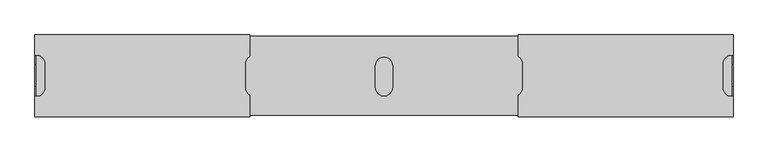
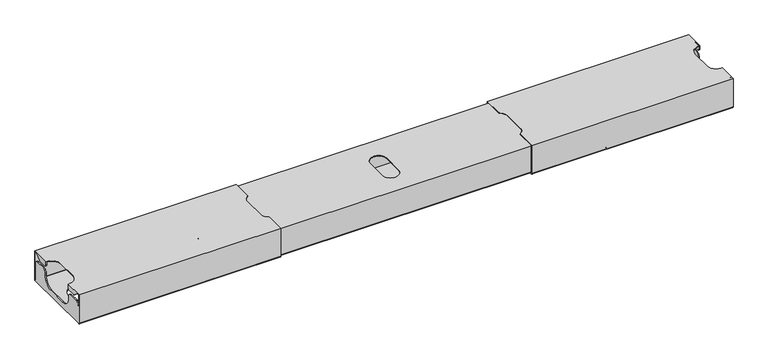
"""IFC4 building model written with IfcOpenShell, lengths in millimetres: furniture geometry, FREZZA_POP AD_Cable tray_for bench desk : Structure_ZGBI - Embossed White."""

from ifc_helpers import new_model, si_unit, frame, origin, place, context, project, spatial, polyline, circle_curve, source, transform, mapped, element, save
from ifc_brep_helpers import plane_surface, cylinder_surface, revolved_surface, advanced_brep


def furniture_9ccfb6ce(model_context):
    return source(origin(), model_context, "Body", "AdvancedBrep", [
        advanced_brep(
        [(440.0, 52.5, 432.7), (440.0, 52.5, 364.2), (440.0, 50.0, 361.7), (440.0, -129.0, 361.7), (440.0, -131.5, 364.2), (440.0, -131.5, 432.7), (440.0, -88.4089023, 432.7), (440.0, -88.4089023, 431.7), (440.0, -129.5, 431.7), (440.0, -129.5, 364.2), (440.0, -129.0, 363.7), (440.0, 50.0, 363.7), (440.0, 50.5, 364.2), (440.0, 50.5, 431.7), (440.0, 5.4089023, 431.7), (440.0, 5.4089023, 432.7), (1440.0, -131.5, 432.7), (1440.0, -131.5, 364.2), (1440.0, -129.0, 361.7), (1440.0, 50.0, 361.7), (1440.0, 52.5, 364.2), (1440.0, 52.5, 432.7), (1440.0, 5.4089023, 432.7), (1440.0, 5.4089023, 431.7), (1440.0, 50.5, 431.7), (1440.0, 50.5, 364.2), (1440.0, 50.0, 363.7), (1440.0, -129.0, 363.7), (1440.0, -129.5, 364.2), (1440.0, -129.5, 431.7), (1440.0, -88.4089023, 431.7), (1440.0, -88.4089023, 432.7), (1438.1818182, -86.4171839, 432.7), (1420.0, -66.5, 432.7), (1420.0, -16.5, 432.7), (1438.1818182, 3.4171839, 432.7), (441.8181818, 3.4171839, 432.7), (460.0, -16.5, 432.7), (460.0, -66.5, 432.7), (441.8181818, -86.4171839, 432.7), (920.0, -66.5, 432.7), (920.0, -16.5, 432.7), (960.0, -16.5, 432.7), (960.0, -66.5, 432.7), (500.0, 0.5, 361.7), (500.0, -79.5, 361.7), (1380.0, -79.5, 361.7), (1380.0, 0.5, 361.7), (1438.1818182, 3.4171839, 431.7), (1420.0, -16.5, 431.7), (1420.0, -66.5, 431.7), (1438.1818182, -86.4171839, 431.7), (441.8181818, -86.4171839, 431.7), (460.0, -66.5, 431.7), (460.0, -16.5, 431.7), (441.8181818, 3.4171839, 431.7), (920.0, -16.5, 431.7), (920.0, -66.5, 431.7), (960.0, -66.5, 431.7), (960.0, -16.5, 431.7), (500.0, -79.5, 363.7), (500.0, 0.5, 363.7), (1380.0, 0.5, 363.7), (1380.0, -79.5, 363.7)],
        [
            (0, 1),
            (1, 2, circle_curve(frame((440.0, 50.0, 364.2), z_axis=(-1.0, 0.0, 0.0), x_axis=(0.0, 1.0, 0.0)), 2.5)),
            (2, 3),
            (3, 4, circle_curve(frame((440.0, -129.0, 364.2), z_axis=(-1.0, 0.0, 0.0), x_axis=(0.0, 1.0, 0.0)), 2.5)),
            (4, 5),
            (5, 6),
            (6, 7),
            (7, 8),
            (8, 9),
            (9, 10, circle_curve(frame((440.0, -129.0, 364.2), z_axis=(1.0, 0.0, 0.0), x_axis=(0.0, 1.0, 0.0)), 0.5)),
            (10, 11),
            (11, 12, circle_curve(frame((440.0, 50.0, 364.2), z_axis=(1.0, 0.0, 0.0), x_axis=(0.0, 1.0, 0.0)), 0.5)),
            (12, 13),
            (13, 14),
            (14, 15),
            (15, 0),
            (16, 17),
            (17, 18, circle_curve(frame((1440.0, -129.0, 364.2), z_axis=(1.0, 0.0, 0.0), x_axis=(0.0, 1.0, 0.0)), 2.5)),
            (18, 19),
            (19, 20, circle_curve(frame((1440.0, 50.0, 364.2), z_axis=(1.0, 0.0, 0.0), x_axis=(0.0, 1.0, 0.0)), 2.5)),
            (20, 21),
            (21, 22),
            (22, 23),
            (23, 24),
            (24, 25),
            (25, 26, circle_curve(frame((1440.0, 50.0, 364.2), z_axis=(-1.0, 0.0, 0.0), x_axis=(0.0, 1.0, 0.0)), 0.5)),
            (26, 27),
            (27, 28, circle_curve(frame((1440.0, -129.0, 364.2), z_axis=(-1.0, 0.0, 0.0), x_axis=(0.0, 1.0, 0.0)), 0.5)),
            (28, 29),
            (29, 30),
            (30, 31),
            (31, 16),
            (5, 16),
            (31, 32, circle_curve(frame((1438.0, -88.4089023, 432.7), z_axis=(0.0, 0.0, 1.0), x_axis=(-1.0, 0.0, 0.0)), 2.0)),
            (32, 33, circle_curve(frame((1440.0, -66.5, 432.7), z_axis=(0.0, 0.0, -1.0), x_axis=(-1.0, 0.0, 0.0)), 20.0)),
            (33, 34),
            (34, 35, circle_curve(frame((1440.0, -16.5, 432.7), z_axis=(0.0, 0.0, -1.0), x_axis=(-1.0, 0.0, 0.0)), 20.0)),
            (35, 22, circle_curve(frame((1438.0, 5.4089023, 432.7), z_axis=(0.0, 0.0, 1.0), x_axis=(-1.0, 0.0, 0.0)), 2.0)),
            (21, 0),
            (15, 36, circle_curve(frame((442.0, 5.4089023, 432.7), z_axis=(0.0, 0.0, 1.0), x_axis=(-1.0, 0.0, 0.0)), 2.0)),
            (36, 37, circle_curve(frame((440.0, -16.5, 432.7), z_axis=(0.0, 0.0, -1.0), x_axis=(-1.0, 0.0, 0.0)), 20.0)),
            (37, 38),
            (38, 39, circle_curve(frame((440.0, -66.5, 432.7), z_axis=(0.0, 0.0, -1.0), x_axis=(-1.0, 0.0, 0.0)), 20.0)),
            (39, 6, circle_curve(frame((442.0, -88.4089023, 432.7), z_axis=(0.0, 0.0, 1.0), x_axis=(-1.0, 0.0, 0.0)), 2.0)),
            (40, 41),
            (41, 42, circle_curve(frame((940.0, -16.5, 432.7), z_axis=(0.0, 0.0, -1.0), x_axis=(-1.0, 0.0, 0.0)), 20.0)),
            (42, 43),
            (43, 40, circle_curve(frame((940.0, -66.5, 432.7), z_axis=(0.0, 0.0, -1.0), x_axis=(-1.0, 0.0, 0.0)), 20.0)),
            (20, 1),
            (19, 2),
            (18, 3),
            (44, 45, circle_curve(frame((500.0, -39.5, 361.7), z_axis=(0.0, 0.0, 1.0), x_axis=(-1.0, 0.0, 0.0)), 40.0)),
            (45, 44, circle_curve(frame((500.0, -39.5, 361.7), z_axis=(0.0, 0.0, 1.0), x_axis=(-1.0, 0.0, 0.0)), 40.0)),
            (46, 47, circle_curve(frame((1380.0, -39.5, 361.7), z_axis=(0.0, 0.0, 1.0), x_axis=(-1.0, 0.0, 0.0)), 40.0)),
            (47, 46, circle_curve(frame((1380.0, -39.5, 361.7), z_axis=(0.0, 0.0, 1.0), x_axis=(-1.0, 0.0, 0.0)), 40.0)),
            (17, 4),
            (13, 24),
            (23, 48, circle_curve(frame((1438.0, 5.4089023, 431.7), z_axis=(0.0, 0.0, -1.0), x_axis=(-1.0, 0.0, 0.0)), 2.0)),
            (48, 49, circle_curve(frame((1440.0, -16.5, 431.7), z_axis=(0.0, 0.0, 1.0), x_axis=(-1.0, 0.0, 0.0)), 20.0)),
            (49, 50),
            (50, 51, circle_curve(frame((1440.0, -66.5, 431.7), z_axis=(0.0, 0.0, 1.0), x_axis=(-1.0, 0.0, 0.0)), 20.0)),
            (51, 30, circle_curve(frame((1438.0, -88.4089023, 431.7), z_axis=(0.0, 0.0, -1.0), x_axis=(-1.0, 0.0, 0.0)), 2.0)),
            (29, 8),
            (7, 52, circle_curve(frame((442.0, -88.4089023, 431.7), z_axis=(0.0, 0.0, -1.0), x_axis=(-1.0, 0.0, 0.0)), 2.0)),
            (52, 53, circle_curve(frame((440.0, -66.5, 431.7), z_axis=(0.0, 0.0, 1.0), x_axis=(-1.0, 0.0, 0.0)), 20.0)),
            (53, 54),
            (54, 55, circle_curve(frame((440.0, -16.5, 431.7), z_axis=(0.0, 0.0, 1.0), x_axis=(-1.0, 0.0, 0.0)), 20.0)),
            (55, 14, circle_curve(frame((442.0, 5.4089023, 431.7), z_axis=(0.0, 0.0, -1.0), x_axis=(-1.0, 0.0, 0.0)), 2.0)),
            (56, 57),
            (57, 58, circle_curve(frame((940.0, -66.5, 431.7), z_axis=(0.0, 0.0, 1.0), x_axis=(-1.0, 0.0, 0.0)), 20.0)),
            (58, 59),
            (59, 56, circle_curve(frame((940.0, -16.5, 431.7), z_axis=(0.0, 0.0, 1.0), x_axis=(-1.0, 0.0, 0.0)), 20.0)),
            (28, 9),
            (27, 10),
            (26, 11),
            (60, 61, circle_curve(frame((500.0, -39.5, 363.7), z_axis=(0.0, 0.0, -1.0), x_axis=(-1.0, 0.0, 0.0)), 40.0)),
            (61, 60, circle_curve(frame((500.0, -39.5, 363.7), z_axis=(0.0, 0.0, -1.0), x_axis=(-1.0, 0.0, 0.0)), 40.0)),
            (62, 63, circle_curve(frame((1380.0, -39.5, 363.7), z_axis=(0.0, 0.0, -1.0), x_axis=(-1.0, 0.0, 0.0)), 40.0)),
            (63, 62, circle_curve(frame((1380.0, -39.5, 363.7), z_axis=(0.0, 0.0, -1.0), x_axis=(-1.0, 0.0, 0.0)), 40.0)),
            (25, 12),
            (40, 57),
            (56, 41),
            (43, 58),
            (42, 59),
            (32, 51),
            (50, 33),
            (35, 48),
            (34, 49),
            (37, 54),
            (53, 38),
            (36, 55),
            (39, 52),
            (60, 45),
            (44, 61),
            (62, 47),
            (46, 63),
        ],
        [
            plane_surface(frame((440.0, -39.5, 436.2), z_axis=(-1.0, 0.0, 0.0), x_axis=(0.0, 0.0, 1.0))),
            plane_surface(frame((1440.0, -39.5, 436.2), z_axis=(1.0, 0.0, 0.0), x_axis=(0.0, 0.0, 1.0))),
            plane_surface(frame((440.0, -131.5, 432.7), z_axis=(0.0, 0.0, 1.0), x_axis=(1.0, 0.0, 0.0))),
            plane_surface(frame((440.0, 52.5, 432.7), z_axis=(0.0, 1.0, 0.0), x_axis=(1.0, 0.0, 0.0))),
            cylinder_surface(frame((440.0, 50.0, 364.2), z_axis=(-1.0, 0.0, 0.0), x_axis=(0.0, 1.0, 0.0)), 2.5),
            plane_surface(frame((440.0, 50.0, 361.7), z_axis=(0.0, 0.0, -1.0), x_axis=(1.0, 0.0, 0.0))),
            cylinder_surface(frame((440.0, -129.0, 364.2), z_axis=(-1.0, 0.0, 0.0), x_axis=(0.0, 1.0, 0.0)), 2.5),
            plane_surface(frame((440.0, -131.5, 364.2), z_axis=(0.0, -1.0, 0.0), x_axis=(1.0, 0.0, 0.0))),
            plane_surface(frame((440.0, 50.5, 431.7), z_axis=(0.0, 0.0, -1.0), x_axis=(1.0, 0.0, 0.0))),
            plane_surface(frame((440.0, -129.5, 431.7), z_axis=(0.0, 1.0, 0.0), x_axis=(1.0, 0.0, 0.0))),
            revolved_surface(polyline([(1440.0, -128.5, 364.2), (440.0, -128.5, 364.2)]), (440.0, -129.0, 364.2), (1.0, 0.0, 0.0)),
            plane_surface(frame((440.0, -129.0, 363.7), z_axis=(0.0, 0.0, 1.0), x_axis=(1.0, 0.0, 0.0))),
            revolved_surface(polyline([(1440.0, 50.5, 364.2), (440.0, 50.5, 364.2)]), (440.0, 50.0, 364.2), (1.0, 0.0, 0.0)),
            plane_surface(frame((440.0, 50.5, 364.2), z_axis=(0.0, -1.0, 0.0), x_axis=(1.0, 0.0, 0.0))),
            plane_surface(frame((920.0, -16.5, 432.7), z_axis=(1.0, 0.0, 0.0), x_axis=(0.0, 0.0, -1.0))),
            revolved_surface(polyline([(920.0, -66.5, 432.7), (920.0, -66.5, 431.7)]), (940.0, -66.5, 431.7), (0.0, 0.0, 1.0)),
            plane_surface(frame((960.0, -66.5, 432.7), z_axis=(-1.0, 0.0, 0.0), x_axis=(0.0, 0.0, -1.0))),
            revolved_surface(polyline([(920.0, -16.5, 432.7), (920.0, -16.5, 431.7)]), (940.0, -16.5, 431.7), (0.0, 0.0, 1.0)),
            revolved_surface(polyline([(1420.0, -66.5, 432.7), (1420.0, -66.5, 431.7)]), (1440.0, -66.5, 436.2), (0.0, 0.0, 1.0)),
            cylinder_surface(frame((1438.0, -88.4089023, 436.2), z_axis=(0.0, 0.0, -1.0), x_axis=(-1.0, 0.0, 0.0)), 2.0),
            cylinder_surface(frame((1438.0, 5.4089023, 436.2), z_axis=(0.0, 0.0, -1.0), x_axis=(-1.0, 0.0, 0.0)), 2.0),
            revolved_surface(polyline([(1420.0, -16.5, 432.7), (1420.0, -16.5, 431.7)]), (1440.0, -16.5, 436.2), (0.0, 0.0, 1.0)),
            plane_surface(frame((1420.0, -16.5, 432.7), z_axis=(1.0, 0.0, 0.0), x_axis=(0.0, 0.0, -1.0))),
            plane_surface(frame((460.0, -66.5, 432.7), z_axis=(-1.0, 0.0, 0.0), x_axis=(0.0, 0.0, -1.0))),
            revolved_surface(polyline([(420.0, -16.5, 432.7), (420.0, -16.5, 431.7)]), (440.0, -16.5, 436.2), (0.0, 0.0, 1.0)),
            cylinder_surface(frame((442.0, 5.4089023, 436.2), z_axis=(0.0, 0.0, -1.0), x_axis=(-1.0, 0.0, 0.0)), 2.0),
            cylinder_surface(frame((442.0, -88.4089023, 436.2), z_axis=(0.0, 0.0, -1.0), x_axis=(-1.0, 0.0, 0.0)), 2.0),
            revolved_surface(polyline([(420.0, -66.5, 432.7), (420.0, -66.5, 431.7)]), (440.0, -66.5, 436.2), (0.0, 0.0, 1.0)),
            revolved_surface(polyline([(460.0, -39.5, 363.7), (460.0, -39.5, 361.7)]), (500.0, -39.5, 361.7), (0.0, 0.0, 1.0)),
            revolved_surface(polyline([(1340.0, -39.5, 363.7), (1340.0, -39.5, 361.7)]), (1380.0, -39.5, 436.2), (0.0, 0.0, 1.0)),
        ],
        [
            (0, [[1, 2, 3, 4, 5, 6, 7, 8, 9, 10, 11, 12, 13, 14, 15, 16]]),
            (1, [[17, 18, 19, 20, 21, 22, 23, 24, 25, 26, 27, 28, 29, 30, 31, 32]]),
            (2, [[33, -32, 34, 35, 36, 37, 38, -22, 39, -16, 40, 41, 42, 43, 44, -6], [45, 46, 47, 48]]),
            (3, [[-1, -39, -21, 49]]),
            (4, [[-2, -49, -20, 50]]),
            (5, [[-3, -50, -19, 51], [52, 53], [54, 55]]),
            (6, [[-4, -51, -18, 56]]),
            (7, [[-5, -56, -17, -33]]),
            (8, [[57, -24, 58, 59, 60, 61, 62, -30, 63, -8, 64, 65, 66, 67, 68, -14], [69, 70, 71, 72]]),
            (9, [[-9, -63, -29, 73]]),
            (10, [[-10, -73, -28, 74]]),
            (11, [[-11, -74, -27, 75], [76, 77], [78, 79]]),
            (12, [[-12, -75, -26, 80]]),
            (13, [[-13, -80, -25, -57]]),
            (14, [[81, -69, 82, -45]]),
            (15, [[-81, -48, 83, -70]]),
            (16, [[-83, -47, 84, -71]]),
            (17, [[-82, -72, -84, -46]]),
            (18, [[85, -61, 86, -35]]),
            (19, [[-85, -34, -31, -62]]),
            (20, [[87, -58, -23, -38]]),
            (21, [[-87, -37, 88, -59]]),
            (22, [[-86, -60, -88, -36]]),
            (23, [[89, -66, 90, -42]]),
            (24, [[-89, -41, 91, -67]]),
            (25, [[-91, -40, -15, -68]]),
            (26, [[92, -64, -7, -44]]),
            (27, [[-90, -65, -92, -43]]),
            (28, [[93, -52, 94, -76]]),
            (28, [[-93, -77, -94, -53]]),
            (29, [[95, -54, 96, -78]]),
            (29, [[-95, -79, -96, -55]]),
        ],
    ),
        advanced_brep(
        [(1749.5, 43.0, 414.7), (1749.5, 53.0, 404.7), (1749.5, 53.0, 361.7), (1749.5, -132.0, 361.7), (1749.5, -132.0, 404.7), (1749.5, -122.0, 414.7), (1749.5, -99.5, 414.7), (1749.5, -89.5, 404.7), (1749.5, -89.5, 399.2), (1749.5, -65.0, 374.7), (1749.5, -14.0, 374.7), (1749.5, 10.5, 399.2), (1749.5, 10.5, 404.7), (1749.5, 20.5, 414.7), (1749.5, 47.9785738, 435.2), (1749.5, 35.0716175, 424.3697778), (1749.5, 31.8576795, 423.2), (1749.5, 13.4785156, 423.2), (1749.5, 8.4785156, 428.2), (1749.5, 8.4785156, 435.2), (1749.5, -87.4785156, 428.2), (1749.5, -92.4785156, 423.2), (1749.5, -110.8576795, 423.2), (1749.5, -114.0716175, 424.3697778), (1749.5, -126.9785738, 435.2), (1749.5, -87.4785156, 435.2), (1751.5, 43.0, 414.7), (1751.5, 53.0, 404.7), (1751.5, 53.0, 361.7), (1751.5, -132.0, 361.7), (1751.5, -132.0, 404.7), (1751.5, -122.0, 414.7), (1751.5, -99.5, 414.7), (1751.5, -89.5, 404.7), (1751.5, -89.5, 399.2), (1751.5, -65.0, 374.7), (1751.5, -14.0, 374.7), (1751.5, 10.5, 399.2), (1751.5, 10.5, 404.7), (1751.5, 20.5, 414.7), (1751.5, 47.9785738, 435.2), (1751.5, 35.0716175, 424.3697778), (1751.5, 31.8576795, 423.2), (1751.5, 13.4785156, 423.2), (1751.5, 8.4785156, 428.2), (1751.5, 8.4785156, 436.2), (1748.4690524, 8.4785156, 436.2), (1748.4690524, 8.4785156, 435.2), (1751.5, -87.4785156, 428.2), (1747.170599, -87.4785156, 435.2), (1747.170599, -87.4785156, 436.2), (1751.5, -87.4785156, 436.2), (1751.5, -92.4785156, 423.2), (1751.5, -110.8576795, 423.2), (1751.5, -114.0716175, 424.3697778), (1751.5, -126.9785738, 435.2), (1726.9618953, -13.0238313, 436.2), (1726.9618953, -13.0238313, 435.2), (1726.9618953, -66.7365173, 435.2), (1726.9618953, -66.7365173, 436.2), (1751.5, -134.5, 436.2), (1751.5, -134.5, 362.2), (1751.5, -132.0, 359.7), (1751.5, 55.4854761, 359.7), (1751.5, 55.4854761, 436.2), (1751.5, 53.5, 435.2), (1751.5, 53.5, 362.2), (1751.5, -132.5, 362.2), (1751.5, -132.5, 435.2), (1251.5, 55.4854761, 436.2), (1251.5, 55.4854761, 359.7), (1251.5, -132.0, 359.7), (1251.5, -134.5, 362.2), (1251.5, -134.5, 436.2), (1251.5, -87.8674785, 436.2), (1251.5, -87.8674785, 435.2), (1251.5, -132.5, 435.2), (1251.5, -132.5, 362.2), (1251.5, -132.0, 361.7), (1251.5, 53.0, 361.7), (1251.5, 53.5, 362.2), (1251.5, 53.5, 435.2), (1251.5, 8.8246261, 435.2), (1251.5, 8.8246261, 436.2), (1720.0, -39.5, 359.7), (1640.0, -39.5, 359.7), (1253.6698113, 4.7027294, 436.2), (1263.0, -13.0214262, 436.2), (1263.0, -66.0214262, 436.2), (1253.6698113, -83.7455818, 436.2), (1640.0, -39.5, 361.7), (1720.0, -39.5, 361.7), (1253.6698113, -83.7455818, 435.2), (1263.0, -66.0214262, 435.2), (1263.0, -13.0214262, 435.2), (1253.6698113, 4.7027294, 435.2)],
        [
            (0, 1, circle_curve(frame((1749.5, 43.0, 404.7), z_axis=(-1.0, 0.0, 0.0), x_axis=(0.0, 0.0, -1.0)), 10.0)),
            (1, 2),
            (2, 3),
            (3, 4),
            (4, 5, circle_curve(frame((1749.5, -122.0, 404.7), z_axis=(-1.0, 0.0, 0.0), x_axis=(0.0, 0.0, -1.0)), 10.0)),
            (5, 6),
            (6, 7, circle_curve(frame((1749.5, -99.5, 404.7), z_axis=(-1.0, 0.0, 0.0), x_axis=(0.0, 0.0, -1.0)), 10.0)),
            (7, 8),
            (8, 9, circle_curve(frame((1749.5, -65.0, 399.2), z_axis=(1.0, 0.0, 0.0), x_axis=(0.0, 0.0, -1.0)), 24.5)),
            (9, 10),
            (10, 11, circle_curve(frame((1749.5, -14.0, 399.2), z_axis=(1.0, 0.0, 0.0), x_axis=(0.0, 0.0, -1.0)), 24.5)),
            (11, 12),
            (12, 13, circle_curve(frame((1749.5, 20.5, 404.7), z_axis=(-1.0, 0.0, 0.0), x_axis=(0.0, 0.0, -1.0)), 10.0)),
            (13, 0),
            (14, 15),
            (15, 16, circle_curve(frame((1749.5, 31.8576795, 428.2), z_axis=(-1.0, 0.0, 0.0), x_axis=(0.0, 0.0, -1.0)), 5.0)),
            (16, 17),
            (17, 18, circle_curve(frame((1749.5, 13.4785156, 428.2), z_axis=(-1.0, 0.0, 0.0), x_axis=(0.0, 0.0, -1.0)), 5.0)),
            (18, 19),
            (19, 14),
            (20, 21, circle_curve(frame((1749.5, -92.4785156, 428.2), z_axis=(-1.0, 0.0, 0.0), x_axis=(0.0, 0.0, -1.0)), 5.0)),
            (21, 22),
            (22, 23, circle_curve(frame((1749.5, -110.8576795, 428.2), z_axis=(-1.0, 0.0, 0.0), x_axis=(0.0, 0.0, -1.0)), 5.0)),
            (23, 24),
            (24, 25),
            (25, 20),
            (0, 26),
            (26, 27, circle_curve(frame((1751.5, 43.0, 404.7), z_axis=(-1.0, 0.0, 0.0), x_axis=(0.0, 0.0, -1.0)), 10.0)),
            (27, 1),
            (27, 28),
            (28, 2),
            (3, 29),
            (29, 30),
            (30, 4),
            (30, 31, circle_curve(frame((1751.5, -122.0, 404.7), z_axis=(-1.0, 0.0, 0.0), x_axis=(0.0, 0.0, -1.0)), 10.0)),
            (31, 5),
            (31, 32),
            (32, 6),
            (32, 33, circle_curve(frame((1751.5, -99.5, 404.7), z_axis=(-1.0, 0.0, 0.0), x_axis=(0.0, 0.0, -1.0)), 10.0)),
            (33, 7),
            (33, 34),
            (34, 8),
            (34, 35, circle_curve(frame((1751.5, -65.0, 399.2), z_axis=(1.0, 0.0, 0.0), x_axis=(0.0, 0.0, -1.0)), 24.5)),
            (35, 9),
            (35, 36),
            (36, 10),
            (36, 37, circle_curve(frame((1751.5, -14.0, 399.2), z_axis=(1.0, 0.0, 0.0), x_axis=(0.0, 0.0, -1.0)), 24.5)),
            (37, 11),
            (37, 38),
            (38, 12),
            (38, 39, circle_curve(frame((1751.5, 20.5, 404.7), z_axis=(-1.0, 0.0, 0.0), x_axis=(0.0, 0.0, -1.0)), 10.0)),
            (39, 13),
            (39, 26),
            (14, 40),
            (40, 41),
            (41, 15),
            (41, 42, circle_curve(frame((1751.5, 31.8576795, 428.2), z_axis=(-1.0, 0.0, 0.0), x_axis=(0.0, 0.0, -1.0)), 5.0)),
            (42, 16),
            (42, 43),
            (43, 17),
            (43, 44, circle_curve(frame((1751.5, 13.4785156, 428.2), z_axis=(-1.0, 0.0, 0.0), x_axis=(0.0, 0.0, -1.0)), 5.0)),
            (44, 18),
            (44, 45),
            (45, 46),
            (46, 47),
            (47, 19),
            (48, 20),
            (25, 49),
            (49, 50),
            (50, 51),
            (51, 48),
            (48, 52, circle_curve(frame((1751.5, -92.4785156, 428.2), z_axis=(-1.0, 0.0, 0.0), x_axis=(0.0, 0.0, -1.0)), 5.0)),
            (52, 21),
            (52, 53),
            (53, 22),
            (53, 54, circle_curve(frame((1751.5, -110.8576795, 428.2), z_axis=(-1.0, 0.0, 0.0), x_axis=(0.0, 0.0, -1.0)), 5.0)),
            (54, 23),
            (54, 55),
            (55, 24),
            (56, 57),
            (57, 47, circle_curve(frame((1748.4690524, -13.0238313, 435.2), z_axis=(0.0, 0.0, -1.0), x_axis=(1.0, 0.0, 0.0)), 21.5071571)),
            (46, 56, circle_curve(frame((1748.4690524, -13.0238313, 436.2), z_axis=(0.0, 0.0, 1.0), x_axis=(1.0, 0.0, 0.0)), 21.5071571)),
            (49, 58, circle_curve(frame((1748.45, -66.0214262, 435.2), z_axis=(0.0, 0.0, -1.0), x_axis=(1.0, 0.0, 0.0)), 21.5)),
            (58, 59),
            (59, 50, circle_curve(frame((1748.45, -66.0214262, 436.2), z_axis=(0.0, 0.0, 1.0), x_axis=(1.0, 0.0, 0.0)), 21.5)),
            (56, 59),
            (58, 57),
            (60, 61),
            (61, 62, circle_curve(frame((1751.5, -132.0, 362.2), z_axis=(1.0, 0.0, 0.0), x_axis=(0.0, 0.0, -1.0)), 2.5)),
            (62, 63),
            (63, 64),
            (64, 45),
            (40, 65),
            (65, 66),
            (66, 28, circle_curve(frame((1751.5, 53.0, 362.2), z_axis=(-1.0, 0.0, 0.0), x_axis=(0.0, 0.0, -1.0)), 0.5)),
            (29, 67, circle_curve(frame((1751.5, -132.0, 362.2), z_axis=(-1.0, 0.0, 0.0), x_axis=(0.0, 0.0, -1.0)), 0.5)),
            (67, 68),
            (68, 55),
            (51, 60),
            (69, 70),
            (70, 71),
            (71, 72, circle_curve(frame((1251.5, -132.0, 362.2), z_axis=(-1.0, 0.0, 0.0), x_axis=(0.0, 0.0, -1.0)), 2.5)),
            (72, 73),
            (73, 74),
            (74, 75),
            (75, 76),
            (76, 77),
            (77, 78, circle_curve(frame((1251.5, -132.0, 362.2), z_axis=(1.0, 0.0, 0.0), x_axis=(0.0, 0.0, -1.0)), 0.5)),
            (78, 79),
            (79, 80, circle_curve(frame((1251.5, 53.0, 362.2), z_axis=(1.0, 0.0, 0.0), x_axis=(0.0, 0.0, -1.0)), 0.5)),
            (80, 81),
            (81, 82),
            (82, 83),
            (83, 69),
            (63, 70),
            (69, 64),
            (62, 71),
            (84, 85, circle_curve(frame((1680.0, -39.5, 359.7), z_axis=(0.0, 0.0, 1.0), x_axis=(1.0, 0.0, 0.0)), 40.0)),
            (85, 84, circle_curve(frame((1680.0, -39.5, 359.7), z_axis=(0.0, 0.0, 1.0), x_axis=(1.0, 0.0, 0.0)), 40.0)),
            (61, 72),
            (60, 73),
            (83, 86, circle_curve(frame((1256.5, 8.8246261, 436.2), z_axis=(0.0, 0.0, 1.0), x_axis=(1.0, 0.0, 0.0)), 5.0)),
            (86, 87, circle_curve(frame((1241.5, -13.0214262, 436.2), z_axis=(0.0, 0.0, -1.0), x_axis=(1.0, 0.0, 0.0)), 21.5)),
            (87, 88),
            (88, 89, circle_curve(frame((1241.5, -66.0214262, 436.2), z_axis=(0.0, 0.0, -1.0), x_axis=(1.0, 0.0, 0.0)), 21.5)),
            (89, 74, circle_curve(frame((1256.5, -87.8674785, 436.2), z_axis=(0.0, 0.0, 1.0), x_axis=(1.0, 0.0, 0.0)), 5.0)),
            (67, 77),
            (76, 68),
            (3, 78),
            (2, 79),
            (90, 91, circle_curve(frame((1680.0, -39.5, 361.7), z_axis=(0.0, 0.0, -1.0), x_axis=(1.0, 0.0, 0.0)), 40.0)),
            (91, 90, circle_curve(frame((1680.0, -39.5, 361.7), z_axis=(0.0, 0.0, -1.0), x_axis=(1.0, 0.0, 0.0)), 40.0)),
            (66, 80),
            (65, 81),
            (75, 92, circle_curve(frame((1256.5, -87.8674785, 435.2), z_axis=(0.0, 0.0, -1.0), x_axis=(1.0, 0.0, 0.0)), 5.0)),
            (92, 93, circle_curve(frame((1241.5, -66.0214262, 435.2), z_axis=(0.0, 0.0, 1.0), x_axis=(1.0, 0.0, 0.0)), 21.5)),
            (93, 94),
            (94, 95, circle_curve(frame((1241.5, -13.0214262, 435.2), z_axis=(0.0, 0.0, 1.0), x_axis=(1.0, 0.0, 0.0)), 21.5)),
            (95, 82, circle_curve(frame((1256.5, 8.8246261, 435.2), z_axis=(0.0, 0.0, -1.0), x_axis=(1.0, 0.0, 0.0)), 5.0)),
            (90, 85),
            (84, 91),
            (88, 93),
            (92, 89),
            (95, 86),
            (94, 87),
        ],
        [
            plane_surface(frame((1749.5, 43.0, 414.7), z_axis=(-1.0, 0.0, 0.0), x_axis=(0.0, 1.0, 0.0))),
            cylinder_surface(frame((1749.5, 43.0, 404.7), z_axis=(1.0, 0.0, 0.0), x_axis=(0.0, 0.0, -1.0)), 10.0),
            plane_surface(frame((1751.5, 53.0, 361.7), z_axis=(0.0, 1.0, 0.0), x_axis=(-1.0, 0.0, 0.0))),
            plane_surface(frame((1751.5, -132.0, 404.7), z_axis=(0.0, -1.0, 0.0), x_axis=(-1.0, 0.0, 0.0))),
            cylinder_surface(frame((1749.5, -122.0, 404.7), z_axis=(1.0, 0.0, 0.0), x_axis=(0.0, 0.0, -1.0)), 10.0),
            plane_surface(frame((1751.5, -99.5, 414.7), z_axis=(0.0, 0.0, 1.0), x_axis=(-1.0, 0.0, 0.0))),
            cylinder_surface(frame((1749.5, -99.5, 404.7), z_axis=(1.0, 0.0, 0.0), x_axis=(0.0, 0.0, -1.0)), 10.0),
            plane_surface(frame((1751.5, -89.5, 399.2), z_axis=(0.0, 1.0, 0.0), x_axis=(-1.0, 0.0, 0.0))),
            revolved_surface(polyline([(1749.5, -65.0, 374.7), (1751.5, -65.0, 374.7)]), (1749.5, -65.0, 399.2), (-1.0, 0.0, 0.0)),
            plane_surface(frame((1751.5, -14.0, 374.7), z_axis=(0.0, 0.0, 1.0), x_axis=(-1.0, 0.0, 0.0))),
            revolved_surface(polyline([(1749.5, -14.0, 374.7), (1751.5, -14.0, 374.7)]), (1749.5, -14.0, 399.2), (-1.0, 0.0, 0.0)),
            plane_surface(frame((1751.5, 10.5, 404.7), z_axis=(0.0, -1.0, 0.0), x_axis=(-1.0, 0.0, 0.0))),
            cylinder_surface(frame((1749.5, 20.5, 404.7), z_axis=(1.0, 0.0, 0.0), x_axis=(0.0, 0.0, -1.0)), 10.0),
            plane_surface(frame((1751.5, 43.0, 414.7), z_axis=(0.0, 0.0, 1.0), x_axis=(-1.0, 0.0, 0.0))),
            plane_surface(frame((1751.5, 35.0716175, 424.3697778), z_axis=(0.0, 0.6427876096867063, -0.7660444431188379), x_axis=(-1.0, 0.0, 0.0))),
            cylinder_surface(frame((1751.5, 31.8576795, 428.2), z_axis=(1.0, 0.0, 0.0), x_axis=(0.0, 0.0, -1.0)), 5.0),
            plane_surface(frame((1751.5, 13.4785156, 423.2), z_axis=(0.0, 0.0, -1.0), x_axis=(-1.0, 0.0, 0.0))),
            cylinder_surface(frame((1751.5, 13.4785156, 428.2), z_axis=(1.0, 0.0, 0.0), x_axis=(0.0, 0.0, -1.0)), 5.0),
            plane_surface(frame((1751.5, 8.4785156, 436.2), z_axis=(0.0, -1.0, 0.0), x_axis=(-1.0, 0.0, 0.0))),
            plane_surface(frame((1751.5, -87.4785156, 428.2), z_axis=(0.0, 1.0, 0.0), x_axis=(-1.0, 0.0, 0.0))),
            cylinder_surface(frame((1751.5, -92.4785156, 428.2), z_axis=(1.0, 0.0, 0.0), x_axis=(0.0, 0.0, -1.0)), 5.0),
            plane_surface(frame((1751.5, -110.8576795, 423.2), z_axis=(0.0, 0.0, -1.0), x_axis=(-1.0, 0.0, 0.0))),
            cylinder_surface(frame((1751.5, -110.8576795, 428.2), z_axis=(1.0, 0.0, 0.0), x_axis=(0.0, 0.0, -1.0)), 5.0),
            plane_surface(frame((1751.5, -126.9785738, 435.2), z_axis=(0.0, -0.6427876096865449, -0.7660444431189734), x_axis=(-1.0, 0.0, 0.0))),
            revolved_surface(polyline([(1769.9762095, -13.0238313, 436.2), (1769.9762095, -13.0238313, 435.2)]), (1748.4690524, -13.0238313, 435.2), (0.0, 0.0, 1.0)),
            revolved_surface(polyline([(1769.95, -66.0214262, 436.2), (1769.95, -66.0214262, 435.2)]), (1748.45, -66.0214262, 435.2), (0.0, 0.0, 1.0)),
            plane_surface(frame((1726.9618953, -13.0238313, 436.2), z_axis=(1.0, 0.0, 0.0), x_axis=(0.0, 0.0, -1.0))),
            plane_surface(frame((1751.5, -134.5, 436.2), z_axis=(1.0, 0.0, 0.0), x_axis=(0.0, -1.0, 0.0))),
            plane_surface(frame((1251.5, -134.5, 436.2), z_axis=(-1.0, 0.0, 0.0), x_axis=(0.0, 1.0, 0.0))),
            plane_surface(frame((1751.5, 55.4854761, 359.7), z_axis=(0.0, 1.0, 0.0), x_axis=(-1.0, 0.0, 0.0))),
            plane_surface(frame((1751.5, -132.0, 359.7), z_axis=(0.0, 0.0, -1.0), x_axis=(-1.0, 0.0, 0.0))),
            cylinder_surface(frame((1251.5, -132.0, 362.2), z_axis=(1.0, 0.0, 0.0), x_axis=(0.0, 0.0, -1.0)), 2.5),
            plane_surface(frame((1751.5, -134.5, 436.2), z_axis=(0.0, -1.0, 0.0), x_axis=(-1.0, 0.0, 0.0))),
            plane_surface(frame((1751.5, 55.4854761, 436.2), z_axis=(0.0, 0.0, 1.0), x_axis=(-1.0, 0.0, 0.0))),
            plane_surface(frame((1751.5, -132.5, 362.2), z_axis=(0.0, 1.0, 0.0), x_axis=(-1.0, 0.0, 0.0))),
            revolved_surface(polyline([(1251.5, -132.0, 361.7), (1751.5, -132.0, 361.7)]), (1751.5, -132.0, 362.2), (-1.0, 0.0, 0.0)),
            plane_surface(frame((1751.5, 53.0, 361.7), z_axis=(0.0, 3.348839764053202e-12, 1.0), x_axis=(-1.0, 0.0, 0.0))),
            revolved_surface(polyline([(1251.5, 53.0, 361.7), (1751.5, 53.0, 361.7)]), (1751.5, 53.0, 362.2), (-1.0, 0.0, 0.0)),
            plane_surface(frame((1751.5, 53.5, 435.2), z_axis=(0.0, -1.0, 0.0), x_axis=(-1.0, 0.0, 0.0))),
            plane_surface(frame((1751.5, -132.5, 435.2), z_axis=(0.0, 0.0, -1.0), x_axis=(-1.0, 0.0, 0.0))),
            revolved_surface(polyline([(1720.0, -39.5, 361.7), (1720.0, -39.5, 359.7)]), (1680.0, -39.5, 359.7), (0.0, 0.0, 1.0)),
            revolved_surface(polyline([(1263.0, -66.0214262, 436.2), (1263.0, -66.0214262, 435.2)]), (1241.5, -66.0214262, 435.2), (0.0, 0.0, 1.0)),
            cylinder_surface(frame((1256.5, -87.8674785, 435.2), z_axis=(0.0, 0.0, -1.0), x_axis=(1.0, 0.0, 0.0)), 5.0),
            cylinder_surface(frame((1256.5, 8.8246261, 435.2), z_axis=(0.0, 0.0, -1.0), x_axis=(1.0, 0.0, 0.0)), 5.0),
            revolved_surface(polyline([(1263.0, -13.0214262, 436.2), (1263.0, -13.0214262, 435.2)]), (1241.5, -13.0214262, 435.2), (0.0, 0.0, 1.0)),
            plane_surface(frame((1263.0, -66.0214262, 436.2), z_axis=(-1.0, 0.0, 0.0), x_axis=(0.0, 0.0, -1.0))),
        ],
        [
            (0, [[1, 2, 3, 4, 5, 6, 7, 8, 9, 10, 11, 12, 13, 14]]),
            (0, [[15, 16, 17, 18, 19, 20]]),
            (0, [[21, 22, 23, 24, 25, 26]]),
            (1, [[-1, 27, 28, 29]]),
            (2, [[-2, -29, 30, 31]]),
            (3, [[-4, 32, 33, 34]]),
            (4, [[-5, -34, 35, 36]]),
            (5, [[-6, -36, 37, 38]]),
            (6, [[-7, -38, 39, 40]]),
            (7, [[-8, -40, 41, 42]]),
            (8, [[-9, -42, 43, 44]]),
            (9, [[-10, -44, 45, 46]]),
            (10, [[-11, -46, 47, 48]]),
            (11, [[-12, -48, 49, 50]]),
            (12, [[-13, -50, 51, 52]]),
            (13, [[-14, -52, 53, -27]]),
            (14, [[-15, 54, 55, 56]]),
            (15, [[-16, -56, 57, 58]]),
            (16, [[-17, -58, 59, 60]]),
            (17, [[-18, -60, 61, 62]]),
            (18, [[-62, 63, 64, 65, 66, -19]]),
            (19, [[67, -26, 68, 69, 70, 71]]),
            (20, [[-21, -67, 72, 73]]),
            (21, [[-22, -73, 74, 75]]),
            (22, [[-23, -75, 76, 77]]),
            (23, [[-24, -77, 78, 79]]),
            (24, [[80, 81, -65, 82]]),
            (25, [[-69, 83, 84, 85]]),
            (26, [[-80, 86, -84, 87]]),
            (27, [[88, 89, 90, 91, 92, -63, -61, -59, -57, -55, 93, 94, 95, -30, -28, -53, -51, -49, -47, -45, -43, -41, -39, -37, -35, -33, 96, 97, 98, -78, -76, -74, -72, -71, 99]]),
            (28, [[100, 101, 102, 103, 104, 105, 106, 107, 108, 109, 110, 111, 112, 113, 114]]),
            (29, [[-91, 115, -100, 116]]),
            (30, [[-90, 117, -101, -115], [118, 119]]),
            (31, [[-89, 120, -102, -117]]),
            (32, [[-88, 121, -103, -120]]),
            (33, [[-116, -114, 122, 123, 124, 125, 126, -104, -121, -99, -70, -85, -86, -82, -64, -92]]),
            (34, [[-97, 127, -107, 128]]),
            (35, [[-96, -32, 129, -108, -127]]),
            (36, [[-109, -129, -3, 130], [131, 132]]),
            (37, [[-95, 133, -110, -130, -31]]),
            (38, [[-94, 134, -111, -133]]),
            (39, [[-128, -106, 135, 136, 137, 138, 139, -112, -134, -93, -54, -20, -66, -81, -87, -83, -68, -25, -79, -98]]),
            (40, [[140, -118, 141, -131]]),
            (40, [[-140, -132, -141, -119]]),
            (41, [[142, -136, 143, -125]]),
            (42, [[-143, -135, -105, -126]]),
            (43, [[144, -122, -113, -139]]),
            (44, [[-144, -138, 145, -123]]),
            (45, [[-142, -124, -145, -137]]),
        ],
    ),
        advanced_brep(
        [(130.5, 43.0, 414.7), (130.5, 20.5, 414.7), (130.5, 10.5, 404.7), (130.5, 10.5, 399.2), (130.5, -14.0, 374.7), (130.5, -65.0, 374.7), (130.5, -89.5, 399.2), (130.5, -89.5, 404.7), (130.5, -99.5, 414.7), (130.5, -122.0, 414.7), (130.5, -132.0, 404.7), (130.5, -132.0, 361.7), (130.5, 53.0, 361.7), (130.5, 53.0, 404.7), (130.5, 8.4785156, 428.2), (130.5, 13.4785156, 423.2), (130.5, 31.8576795, 423.2), (130.5, 35.0716175, 424.3697778), (130.5, 47.9785738, 435.2), (130.5, 8.4833258, 435.2), (130.5, -126.9785738, 435.2), (130.5, -114.0716175, 424.3697778), (130.5, -110.8576795, 423.2), (130.5, -92.4785156, 423.2), (130.5, -87.4785156, 428.2), (130.5, -87.4833258, 435.2), (128.5, 53.0, 404.7), (128.5, 43.0, 414.7), (128.5, 53.0, 361.7), (128.5, -132.0, 404.7), (128.5, -132.0, 361.7), (128.5, -122.0, 414.7), (128.5, -99.5, 414.7), (128.5, -89.5, 404.7), (128.5, -89.5, 399.2), (128.5, -65.0, 374.7), (128.5, -14.0, 374.7), (128.5, 10.5, 399.2), (128.5, 10.5, 404.7), (128.5, 20.5, 414.7), (128.5, 35.0716175, 424.3697778), (128.5, 47.9785738, 435.2), (128.5, 31.8576795, 423.2), (128.5, 13.4785156, 423.2), (128.5, 8.4785156, 428.2), (128.5, -92.4785156, 423.2), (128.5, -87.4785156, 428.2), (128.5, -110.8576795, 423.2), (128.5, -114.0716175, 424.3697778), (128.5, -126.9785738, 435.2), (128.5, 55.4854761, 436.2), (128.5, 55.4854761, 359.7), (128.5, -132.0, 359.7), (128.5, -134.5, 362.2), (128.5, -134.5, 436.2), (128.5, -87.4833258, 436.2), (128.5, -132.5, 435.2), (128.5, -132.5, 362.2), (128.5, 53.5, 362.2), (128.5, 53.5, 435.2), (128.5, 8.4833258, 436.2), (628.5, -134.5, 436.2), (628.5, -134.5, 362.2), (628.5, -132.0, 359.7), (628.5, 55.4854761, 359.7), (628.5, 55.4854761, 436.2), (628.5, 8.8246261, 436.2), (628.5, 8.8246261, 435.2), (628.5, 53.5, 435.2), (628.5, 53.5, 362.2), (628.5, 53.0, 361.7), (628.5, -132.0, 361.7), (628.5, -132.5, 362.2), (628.5, -132.5, 435.2), (628.5, -87.8674785, 435.2), (628.5, -87.8674785, 436.2), (240.0, -39.5, 359.7), (160.0, -39.5, 359.7), (131.5309476, 8.4833258, 436.2), (153.0381047, -13.0238313, 436.2), (153.0381047, -66.7365173, 436.2), (132.829401, -87.4833258, 436.2), (626.3301887, -83.7455818, 436.2), (617.0, -66.0214262, 436.2), (617.0, -13.0214262, 436.2), (626.3301887, 4.7027294, 436.2), (160.0, -39.5, 361.7), (240.0, -39.5, 361.7), (132.829401, -87.4833258, 435.2), (153.0381047, -66.7365173, 435.2), (153.0381047, -13.0238313, 435.2), (131.5309476, 8.4833258, 435.2), (626.3301887, 4.7027294, 435.2), (617.0, -13.0214262, 435.2), (617.0, -66.0214262, 435.2), (626.3301887, -83.7455818, 435.2)],
        [
            (0, 1),
            (1, 2, circle_curve(frame((130.5, 20.5, 404.7), z_axis=(1.0, 0.0, 0.0), x_axis=(0.0, 0.0, -1.0)), 10.0)),
            (2, 3),
            (3, 4, circle_curve(frame((130.5, -14.0, 399.2), z_axis=(-1.0, 0.0, 0.0), x_axis=(0.0, 0.0, -1.0)), 24.5)),
            (4, 5),
            (5, 6, circle_curve(frame((130.5, -65.0, 399.2), z_axis=(-1.0, 0.0, 0.0), x_axis=(0.0, 0.0, -1.0)), 24.5)),
            (6, 7),
            (7, 8, circle_curve(frame((130.5, -99.5, 404.7), z_axis=(1.0, 0.0, 0.0), x_axis=(0.0, 0.0, -1.0)), 10.0)),
            (8, 9),
            (9, 10, circle_curve(frame((130.5, -122.0, 404.7), z_axis=(1.0, 0.0, 0.0), x_axis=(0.0, 0.0, -1.0)), 10.0)),
            (10, 11),
            (11, 12),
            (12, 13),
            (13, 0, circle_curve(frame((130.5, 43.0, 404.7), z_axis=(1.0, 0.0, 0.0), x_axis=(0.0, 0.0, -1.0)), 10.0)),
            (14, 15, circle_curve(frame((130.5, 13.4785156, 428.2), z_axis=(1.0, 0.0, 0.0), x_axis=(0.0, 0.0, -1.0)), 5.0)),
            (15, 16),
            (16, 17, circle_curve(frame((130.5, 31.8576795, 428.2), z_axis=(1.0, 0.0, 0.0), x_axis=(0.0, 0.0, -1.0)), 5.0)),
            (17, 18),
            (18, 19),
            (19, 14),
            (20, 21),
            (21, 22, circle_curve(frame((130.5, -110.8576795, 428.2), z_axis=(1.0, 0.0, 0.0), x_axis=(0.0, 0.0, -1.0)), 5.0)),
            (22, 23),
            (23, 24, circle_curve(frame((130.5, -92.4785156, 428.2), z_axis=(1.0, 0.0, 0.0), x_axis=(0.0, 0.0, -1.0)), 5.0)),
            (24, 25),
            (25, 20),
            (13, 26),
            (26, 27, circle_curve(frame((128.5, 43.0, 404.7), z_axis=(1.0, 0.0, 0.0), x_axis=(0.0, 0.0, -1.0)), 10.0)),
            (27, 0),
            (12, 28),
            (28, 26),
            (10, 29),
            (29, 30),
            (30, 11),
            (9, 31),
            (31, 29, circle_curve(frame((128.5, -122.0, 404.7), z_axis=(1.0, 0.0, 0.0), x_axis=(0.0, 0.0, -1.0)), 10.0)),
            (8, 32),
            (32, 31),
            (7, 33),
            (33, 32, circle_curve(frame((128.5, -99.5, 404.7), z_axis=(1.0, 0.0, 0.0), x_axis=(0.0, 0.0, -1.0)), 10.0)),
            (6, 34),
            (34, 33),
            (5, 35),
            (35, 34, circle_curve(frame((128.5, -65.0, 399.2), z_axis=(-1.0, 0.0, 0.0), x_axis=(0.0, 0.0, -1.0)), 24.5)),
            (4, 36),
            (36, 35),
            (3, 37),
            (37, 36, circle_curve(frame((128.5, -14.0, 399.2), z_axis=(-1.0, 0.0, 0.0), x_axis=(0.0, 0.0, -1.0)), 24.5)),
            (2, 38),
            (38, 37),
            (1, 39),
            (39, 38, circle_curve(frame((128.5, 20.5, 404.7), z_axis=(1.0, 0.0, 0.0), x_axis=(0.0, 0.0, -1.0)), 10.0)),
            (27, 39),
            (17, 40),
            (40, 41),
            (41, 18),
            (16, 42),
            (42, 40, circle_curve(frame((128.5, 31.8576795, 428.2), z_axis=(1.0, 0.0, 0.0), x_axis=(0.0, 0.0, -1.0)), 5.0)),
            (15, 43),
            (43, 42),
            (14, 44),
            (44, 43, circle_curve(frame((128.5, 13.4785156, 428.2), z_axis=(1.0, 0.0, 0.0), x_axis=(0.0, 0.0, -1.0)), 5.0)),
            (23, 45),
            (45, 46, circle_curve(frame((128.5, -92.4785156, 428.2), z_axis=(1.0, 0.0, 0.0), x_axis=(0.0, 0.0, -1.0)), 5.0)),
            (46, 24),
            (22, 47),
            (47, 45),
            (21, 48),
            (48, 47, circle_curve(frame((128.5, -110.8576795, 428.2), z_axis=(1.0, 0.0, 0.0), x_axis=(0.0, 0.0, -1.0)), 5.0)),
            (20, 49),
            (49, 48),
            (50, 51),
            (51, 52),
            (52, 53, circle_curve(frame((128.5, -132.0, 362.2), z_axis=(-1.0, 0.0, 0.0), x_axis=(0.0, 0.0, -1.0)), 2.5)),
            (53, 54),
            (54, 55),
            (55, 46),
            (49, 56),
            (56, 57),
            (57, 30, circle_curve(frame((128.5, -132.0, 362.2), z_axis=(1.0, 0.0, 0.0), x_axis=(0.0, 0.0, -1.0)), 0.5)),
            (28, 58, circle_curve(frame((128.5, 53.0, 362.2), z_axis=(1.0, 0.0, 0.0), x_axis=(0.0, 0.0, -1.0)), 0.5)),
            (58, 59),
            (59, 41),
            (44, 60),
            (60, 50),
            (61, 62),
            (62, 63, circle_curve(frame((628.5, -132.0, 362.2), z_axis=(1.0, 0.0, 0.0), x_axis=(0.0, 0.0, -1.0)), 2.5)),
            (63, 64),
            (64, 65),
            (65, 66),
            (66, 67),
            (67, 68),
            (68, 69),
            (69, 70, circle_curve(frame((628.5, 53.0, 362.2), z_axis=(-1.0, 0.0, 0.0), x_axis=(0.0, 0.0, -1.0)), 0.5)),
            (70, 71),
            (71, 72, circle_curve(frame((628.5, -132.0, 362.2), z_axis=(-1.0, 0.0, 0.0), x_axis=(0.0, 0.0, -1.0)), 0.5)),
            (72, 73),
            (73, 74),
            (74, 75),
            (75, 61),
            (50, 65),
            (64, 51),
            (63, 52),
            (76, 77, circle_curve(frame((200.0, -39.5, 359.7), z_axis=(0.0, 0.0, 1.0), x_axis=(-1.0, 0.0, 0.0)), 40.0)),
            (77, 76, circle_curve(frame((200.0, -39.5, 359.7), z_axis=(0.0, 0.0, 1.0), x_axis=(-1.0, 0.0, 0.0)), 40.0)),
            (62, 53),
            (61, 54),
            (60, 78),
            (78, 79, circle_curve(frame((131.5309476, -13.0238313, 436.2), z_axis=(0.0, 0.0, -1.0), x_axis=(-1.0, 0.0, 0.0)), 21.5071571)),
            (79, 80),
            (80, 81, circle_curve(frame((131.55, -66.0214262, 436.2), z_axis=(0.0, 0.0, -1.0), x_axis=(-1.0, 0.0, 0.0)), 21.5)),
            (81, 55),
            (75, 82, circle_curve(frame((623.5, -87.8674785, 436.2), z_axis=(0.0, 0.0, 1.0), x_axis=(-1.0, 0.0, 0.0)), 5.0)),
            (82, 83, circle_curve(frame((638.5, -66.0214262, 436.2), z_axis=(0.0, 0.0, -1.0), x_axis=(-1.0, 0.0, 0.0)), 21.5)),
            (83, 84),
            (84, 85, circle_curve(frame((638.5, -13.0214262, 436.2), z_axis=(0.0, 0.0, -1.0), x_axis=(-1.0, 0.0, 0.0)), 21.5)),
            (85, 66, circle_curve(frame((623.5, 8.8246261, 436.2), z_axis=(0.0, 0.0, 1.0), x_axis=(-1.0, 0.0, 0.0)), 5.0)),
            (56, 73),
            (72, 57),
            (71, 11),
            (70, 12),
            (86, 87, circle_curve(frame((200.0, -39.5, 361.7), z_axis=(0.0, 0.0, -1.0), x_axis=(-1.0, 0.0, 0.0)), 40.0)),
            (87, 86, circle_curve(frame((200.0, -39.5, 361.7), z_axis=(0.0, 0.0, -1.0), x_axis=(-1.0, 0.0, 0.0)), 40.0)),
            (69, 58),
            (68, 59),
            (25, 88),
            (88, 89, circle_curve(frame((131.55, -66.0214262, 435.2), z_axis=(0.0, 0.0, 1.0), x_axis=(-1.0, 0.0, 0.0)), 21.5)),
            (89, 90),
            (90, 91, circle_curve(frame((131.5309476, -13.0238313, 435.2), z_axis=(0.0, 0.0, 1.0), x_axis=(-1.0, 0.0, 0.0)), 21.5071571)),
            (91, 19),
            (67, 92, circle_curve(frame((623.5, 8.8246261, 435.2), z_axis=(0.0, 0.0, -1.0), x_axis=(-1.0, 0.0, 0.0)), 5.0)),
            (92, 93, circle_curve(frame((638.5, -13.0214262, 435.2), z_axis=(0.0, 0.0, 1.0), x_axis=(-1.0, 0.0, 0.0)), 21.5)),
            (93, 94),
            (94, 95, circle_curve(frame((638.5, -66.0214262, 435.2), z_axis=(0.0, 0.0, 1.0), x_axis=(-1.0, 0.0, 0.0)), 21.5)),
            (95, 74, circle_curve(frame((623.5, -87.8674785, 435.2), z_axis=(0.0, 0.0, -1.0), x_axis=(-1.0, 0.0, 0.0)), 5.0)),
            (78, 91),
            (90, 79),
            (81, 88),
            (80, 89),
            (86, 77),
            (76, 87),
            (82, 95),
            (94, 83),
            (85, 92),
            (84, 93),
        ],
        [
            plane_surface(frame((130.5, 43.0, 394.7), z_axis=(1.0, 0.0, 0.0), x_axis=(0.0, 1.0, 0.0))),
            cylinder_surface(frame((130.5, 43.0, 404.7), z_axis=(-1.0, 0.0, 0.0), x_axis=(0.0, 0.0, -1.0)), 10.0),
            plane_surface(frame((128.5, 53.0, 404.7), z_axis=(0.0, 1.0, 0.0), x_axis=(1.0, 0.0, 0.0))),
            plane_surface(frame((128.5, -132.0, 361.7), z_axis=(0.0, -1.0, 0.0), x_axis=(1.0, 0.0, 0.0))),
            cylinder_surface(frame((130.5, -122.0, 404.7), z_axis=(-1.0, 0.0, 0.0), x_axis=(0.0, 0.0, -1.0)), 10.0),
            plane_surface(frame((128.5, -122.0, 414.7), z_axis=(0.0, 0.0, 1.0), x_axis=(1.0, 0.0, 0.0))),
            cylinder_surface(frame((130.5, -99.5, 404.7), z_axis=(-1.0, 0.0, 0.0), x_axis=(0.0, 0.0, -1.0)), 10.0),
            plane_surface(frame((128.5, -89.5, 404.7), z_axis=(0.0, 1.0, 0.0), x_axis=(1.0, 0.0, 0.0))),
            revolved_surface(polyline([(130.5, -65.0, 374.7), (128.5, -65.0, 374.7)]), (130.5, -65.0, 399.2), (1.0, 0.0, 0.0)),
            plane_surface(frame((128.5, -65.0, 374.7), z_axis=(0.0, 0.0, 1.0), x_axis=(1.0, 0.0, 0.0))),
            revolved_surface(polyline([(130.5, -14.0, 374.7), (128.5, -14.0, 374.7)]), (130.5, -14.0, 399.2), (1.0, 0.0, 0.0)),
            plane_surface(frame((128.5, 10.5, 399.2), z_axis=(0.0, -1.0, 0.0), x_axis=(1.0, 0.0, 0.0))),
            cylinder_surface(frame((130.5, 20.5, 404.7), z_axis=(-1.0, 0.0, 0.0), x_axis=(0.0, 0.0, -1.0)), 10.0),
            plane_surface(frame((128.5, 20.5, 414.7), z_axis=(0.0, 0.0, 1.0), x_axis=(1.0, 0.0, 0.0))),
            plane_surface(frame((128.5, 47.9785738, 435.2), z_axis=(0.0, 0.6427876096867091, -0.7660444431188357), x_axis=(1.0, 0.0, 0.0))),
            cylinder_surface(frame((128.5, 31.8576795, 428.2), z_axis=(-1.0, 0.0, 0.0), x_axis=(0.0, 0.0, -1.0)), 5.0),
            plane_surface(frame((128.5, 31.8576795, 423.2), z_axis=(0.0, 0.0, -1.0), x_axis=(1.0, 0.0, 0.0))),
            cylinder_surface(frame((128.5, 13.4785156, 428.2), z_axis=(-1.0, 0.0, 0.0), x_axis=(0.0, 0.0, -1.0)), 5.0),
            cylinder_surface(frame((128.5, -92.4785156, 428.2), z_axis=(-1.0, 0.0, 0.0), x_axis=(0.0, 0.0, -1.0)), 5.0),
            plane_surface(frame((128.5, -92.4785156, 423.2), z_axis=(0.0, 0.0, -1.0), x_axis=(1.0, 0.0, 0.0))),
            cylinder_surface(frame((128.5, -110.8576795, 428.2), z_axis=(-1.0, 0.0, 0.0), x_axis=(0.0, 0.0, -1.0)), 5.0),
            plane_surface(frame((128.5, -114.0716175, 424.3697778), z_axis=(0.0, -0.6427876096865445, -0.7660444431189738), x_axis=(1.0, 0.0, 0.0))),
            plane_surface(frame((128.5, 55.4854761, 436.2), z_axis=(-1.0, 0.0, 0.0), x_axis=(0.0, 0.0, -1.0))),
            plane_surface(frame((628.5, 55.4854761, 436.2), z_axis=(1.0, 0.0, 0.0), x_axis=(0.0, 0.0, 1.0))),
            plane_surface(frame((128.5, 55.4854761, 436.2), z_axis=(0.0, 1.0, 0.0), x_axis=(1.0, 0.0, 0.0))),
            plane_surface(frame((128.5, 55.4854761, 359.7), z_axis=(0.0, 0.0, -1.0), x_axis=(1.0, 0.0, 0.0))),
            cylinder_surface(frame((628.5, -132.0, 362.2), z_axis=(-1.0, 0.0, 0.0), x_axis=(0.0, 0.0, -1.0)), 2.5),
            plane_surface(frame((128.5, -134.5, 362.2), z_axis=(0.0, -1.0, 0.0), x_axis=(1.0, 0.0, 0.0))),
            plane_surface(frame((128.5, -134.5, 436.2), z_axis=(0.0, 0.0, 1.0), x_axis=(1.0, 0.0, 0.0))),
            plane_surface(frame((128.5, -132.5, 435.2), z_axis=(0.0, 1.0, 0.0), x_axis=(1.0, 0.0, 0.0))),
            revolved_surface(polyline([(628.5, -132.0, 361.7), (128.5, -132.0, 361.7)]), (128.5, -132.0, 362.2), (1.0, 0.0, 0.0)),
            plane_surface(frame((128.5, -132.0, 361.7), z_axis=(0.0, 3.348108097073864e-12, 1.0), x_axis=(1.0, 0.0, 0.0))),
            revolved_surface(polyline([(628.5, 53.0, 361.7), (128.5, 53.0, 361.7)]), (128.5, 53.0, 362.2), (1.0, 0.0, 0.0)),
            plane_surface(frame((128.5, 53.5, 362.2), z_axis=(0.0, -1.0, 0.0), x_axis=(1.0, 0.0, 0.0))),
            plane_surface(frame((128.5, 53.5, 435.2), z_axis=(0.0, 0.0, -1.0), x_axis=(1.0, 0.0, 0.0))),
            revolved_surface(polyline([(110.02379049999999, -13.0238313, 436.2), (110.02379049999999, -13.0238313, 435.2)]), (131.5309476, -13.0238313, 435.2), (0.0, 0.0, 1.0)),
            plane_surface(frame((131.5309476, 8.4833258, 436.2), z_axis=(0.0, -1.0, 0.0), x_axis=(0.0, 0.0, -1.0))),
            plane_surface(frame((128.5, -87.4833258, 436.2), z_axis=(0.0, 1.0, 0.0), x_axis=(0.0, 0.0, -1.0))),
            revolved_surface(polyline([(110.05000000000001, -66.0214262, 436.2), (110.05000000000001, -66.0214262, 435.2)]), (131.55, -66.0214262, 435.2), (0.0, 0.0, 1.0)),
            plane_surface(frame((153.0381047, -66.7365173, 436.2), z_axis=(-1.0, 0.0, 0.0), x_axis=(0.0, 0.0, -1.0))),
            revolved_surface(polyline([(160.0, -39.5, 361.7), (160.0, -39.5, 359.7)]), (200.0, -39.5, 359.7), (0.0, 0.0, 1.0)),
            revolved_surface(polyline([(617.0, -66.0214262, 436.2), (617.0, -66.0214262, 435.2)]), (638.5, -66.0214262, 435.2), (0.0, 0.0, 1.0)),
            cylinder_surface(frame((623.5, -87.8674785, 435.2), z_axis=(0.0, 0.0, -1.0), x_axis=(-1.0, 0.0, 0.0)), 5.0),
            cylinder_surface(frame((623.5, 8.8246261, 435.2), z_axis=(0.0, 0.0, -1.0), x_axis=(-1.0, 0.0, 0.0)), 5.0),
            revolved_surface(polyline([(617.0, -13.0214262, 436.2), (617.0, -13.0214262, 435.2)]), (638.5, -13.0214262, 435.2), (0.0, 0.0, 1.0)),
            plane_surface(frame((617.0, -13.0214262, 436.2), z_axis=(1.0, 0.0, 0.0), x_axis=(0.0, 0.0, -1.0))),
        ],
        [
            (0, [[1, 2, 3, 4, 5, 6, 7, 8, 9, 10, 11, 12, 13, 14]]),
            (0, [[15, 16, 17, 18, 19, 20]]),
            (0, [[21, 22, 23, 24, 25, 26]]),
            (1, [[-14, 27, 28, 29]]),
            (2, [[-13, 30, 31, -27]]),
            (3, [[-11, 32, 33, 34]]),
            (4, [[-10, 35, 36, -32]]),
            (5, [[-9, 37, 38, -35]]),
            (6, [[-8, 39, 40, -37]]),
            (7, [[-7, 41, 42, -39]]),
            (8, [[-6, 43, 44, -41]]),
            (9, [[-5, 45, 46, -43]]),
            (10, [[-4, 47, 48, -45]]),
            (11, [[-3, 49, 50, -47]]),
            (12, [[-2, 51, 52, -49]]),
            (13, [[-1, -29, 53, -51]]),
            (14, [[-18, 54, 55, 56]]),
            (15, [[-17, 57, 58, -54]]),
            (16, [[-16, 59, 60, -57]]),
            (17, [[-15, 61, 62, -59]]),
            (18, [[-24, 63, 64, 65]]),
            (19, [[-23, 66, 67, -63]]),
            (20, [[-22, 68, 69, -66]]),
            (21, [[-21, 70, 71, -68]]),
            (22, [[72, 73, 74, 75, 76, 77, -64, -67, -69, -71, 78, 79, 80, -33, -36, -38, -40, -42, -44, -46, -48, -50, -52, -53, -28, -31, 81, 82, 83, -55, -58, -60, -62, 84, 85]]),
            (23, [[86, 87, 88, 89, 90, 91, 92, 93, 94, 95, 96, 97, 98, 99, 100]]),
            (24, [[-72, 101, -89, 102]]),
            (25, [[-73, -102, -88, 103], [104, 105]]),
            (26, [[-74, -103, -87, 106]]),
            (27, [[-75, -106, -86, 107]]),
            (28, [[-101, -85, 108, 109, 110, 111, 112, -76, -107, -100, 113, 114, 115, 116, 117, -90]]),
            (29, [[-79, 118, -97, 119]]),
            (30, [[-80, -119, -96, 120, -34]]),
            (31, [[-95, 121, -12, -120], [122, 123]]),
            (32, [[-81, -30, -121, -94, 124]]),
            (33, [[-82, -124, -93, 125]]),
            (34, [[-118, -78, -70, -26, 126, 127, 128, 129, 130, -19, -56, -83, -125, -92, 131, 132, 133, 134, 135, -98]]),
            (35, [[136, -129, 137, -109]]),
            (36, [[-136, -108, -84, -61, -20, -130]]),
            (37, [[138, -126, -25, -65, -77, -112]]),
            (38, [[-138, -111, 139, -127]]),
            (39, [[-137, -128, -139, -110]]),
            (40, [[140, -104, 141, -122]]),
            (40, [[-140, -123, -141, -105]]),
            (41, [[142, -134, 143, -114]]),
            (42, [[-142, -113, -99, -135]]),
            (43, [[144, -131, -91, -117]]),
            (44, [[-144, -116, 145, -132]]),
            (45, [[-143, -133, -145, -115]]),
        ],
    ),
    ])


if __name__ == "__main__":
    model = new_model("IFC4")
    model_context = context("Model", 3, world=origin())
    ifc_project = project(units=[si_unit("LENGTHUNIT", "METRE", prefix="MILLI")], contexts=[model_context])
    site = spatial("IfcSite", under=ifc_project)
    building = spatial("IfcBuilding", under=site)
    placement = place(None, origin())
    furniture_shape = furniture_9ccfb6ce(model_context)
    element("IfcFurniture", 1, ObjectType="FREZZA_POP AD_Cable tray_for bench desk : Structure_ZGBI - Embossed White", at=placement, inside=building, context=model_context, shape_type="MappedRepresentation", body=[
        mapped(furniture_shape, transform((0.0, 0.0, 0.0), x_axis=(1.0, 0.0, 0.0), y_axis=(0.0, 1.0, 0.0), z_axis=(0.0, 0.0, 1.0))),
    ])
    save(model, "model.ifc")
